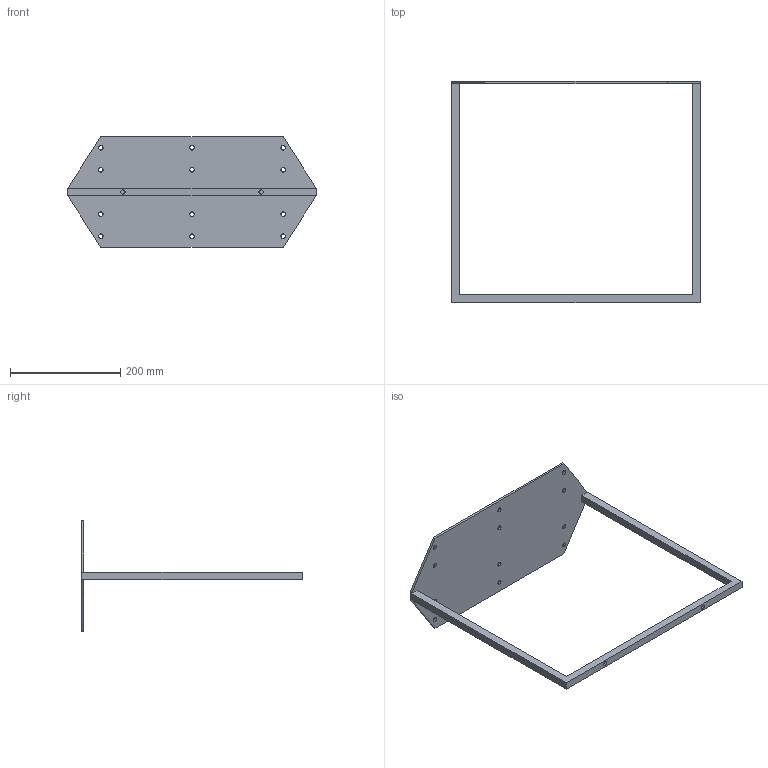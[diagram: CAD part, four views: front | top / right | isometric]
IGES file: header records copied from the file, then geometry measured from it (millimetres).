
Start section: SolidWorks IGES file using NURBS representation for surfaces
Global section: file name: G:\VICCARBE\PRODUCTOS\20-DO IT\04-MODELADOS (PLANOS)\SOLIDWORKS\Contenedores\IGES\VICCARBE_DOC40.IGS; native system: SolidWorks 2009; preprocessor: SolidWorks 2009; author: RUBEN; date: 111102.124001; units: millimetre
Bounding box: 450 x 400 x 200 mm (x, y, z)
Surface area: 230297.4 mm2 (no closed solid volume)
Topology: 0 solids, 0 shells, 46 faces, 1096 edges, 1096 vertices
Faces by surface type: bspline 46
